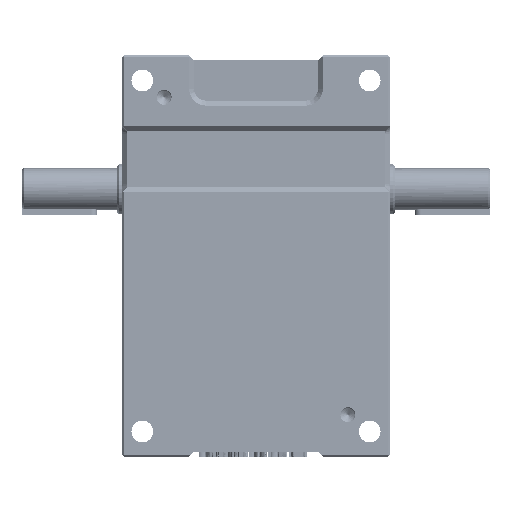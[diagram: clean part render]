
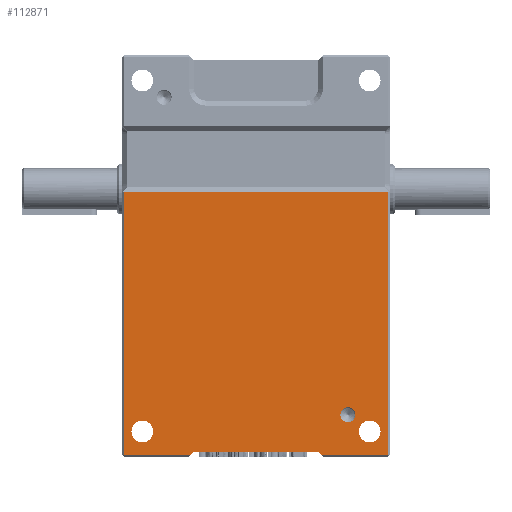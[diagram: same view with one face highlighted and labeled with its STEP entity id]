
A CAD part, front view. The second image highlights one B-rep face of the part: STEP entity #112871.
In plain terms, the highlighted planar face has unit normal (0, -1, 0).
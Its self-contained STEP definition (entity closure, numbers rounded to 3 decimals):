
#633 = CIRCLE ( 'NONE', #91382, 6.5 ) ;
#2591 = CARTESIAN_POINT ( 'NONE',  ( 0., 0., 38. ) ) ;
#5196 = LINE ( 'NONE', #16429, #26968 ) ;
#7037 = DIRECTION ( 'NONE',  ( 0., -1., 0. ) ) ;
#7347 = VERTEX_POINT ( 'NONE', #105244 ) ;
#7643 = EDGE_LOOP ( 'NONE', ( #38108, #106496 ) ) ;
#8387 = CARTESIAN_POINT ( 'NONE',  ( -39., 0., -119. ) ) ;
#9591 = CARTESIAN_POINT ( 'NONE',  ( -68., 0., -98.5 ) ) ;
#12717 = EDGE_CURVE ( 'NONE', #19016, #24311, #633, .T. ) ;
#13719 = PLANE ( 'NONE',  #39126 ) ;
#13885 = CARTESIAN_POINT ( 'NONE',  ( 68., 0., -111.5 ) ) ;
#15091 = CARTESIAN_POINT ( 'NONE',  ( 55., 0., -99.5 ) ) ;
#15590 = EDGE_CURVE ( 'NONE', #111389, #22896, #118101, .T. ) ;
#16051 = VERTEX_POINT ( 'NONE', #15091 ) ;
#16429 = CARTESIAN_POINT ( 'NONE',  ( 79., 0., 0. ) ) ;
#17706 = VECTOR ( 'NONE', #65359, 1000. ) ;
#17763 = LINE ( 'NONE', #59144, #88319 ) ;
#19016 = VERTEX_POINT ( 'NONE', #29663 ) ;
#19221 = EDGE_CURVE ( 'NONE', #38515, #37650, #44780, .T. ) ;
#21787 = FACE_BOUND ( 'NONE', #7643, .T. ) ;
#22896 = VERTEX_POINT ( 'NONE', #8387 ) ;
#24311 = VERTEX_POINT ( 'NONE', #9591 ) ;
#24492 = AXIS2_PLACEMENT_3D ( 'NONE', #54767, #118559, #64024 ) ;
#24713 = FACE_BOUND ( 'NONE', #79881, .T. ) ;
#25164 = EDGE_CURVE ( 'NONE', #7347, #111389, #55324, .T. ) ;
#25351 = CARTESIAN_POINT ( 'NONE',  ( 68., 0., -105. ) ) ;
#26686 = EDGE_LOOP ( 'NONE', ( #108620, #99433, #35570, #73736, #40410, #51152, #28515, #77298 ) ) ;
#26968 = VECTOR ( 'NONE', #99191, 1000. ) ;
#28515 = ORIENTED_EDGE ( 'NONE', *, *, #117228, .F. ) ;
#28581 = VERTEX_POINT ( 'NONE', #45085 ) ;
#29663 = CARTESIAN_POINT ( 'NONE',  ( -68., 0., -111.5 ) ) ;
#30232 = AXIS2_PLACEMENT_3D ( 'NONE', #46139, #110053, #55376 ) ;
#30780 = VECTOR ( 'NONE', #46339, 1000. ) ;
#32361 = DIRECTION ( 'NONE',  ( 0., 0., 1. ) ) ;
#32489 = VERTEX_POINT ( 'NONE', #97321 ) ;
#32625 = DIRECTION ( 'NONE',  ( 0., 0., 1. ) ) ;
#34669 = DIRECTION ( 'NONE',  ( 0., 0., 1. ) ) ;
#35570 = ORIENTED_EDGE ( 'NONE', *, *, #46628, .F. ) ;
#36016 = LINE ( 'NONE', #96507, #111881 ) ;
#37650 = VERTEX_POINT ( 'NONE', #99894 ) ;
#38108 = ORIENTED_EDGE ( 'NONE', *, *, #77966, .F. ) ;
#38262 = EDGE_LOOP ( 'NONE', ( #80477, #68616 ) ) ;
#38471 = CIRCLE ( 'NONE', #30232, 4.5 ) ;
#38515 = VERTEX_POINT ( 'NONE', #103624 ) ;
#39126 = AXIS2_PLACEMENT_3D ( 'NONE', #78249, #87402, #32361 ) ;
#39315 = VERTEX_POINT ( 'NONE', #104964 ) ;
#40115 = CARTESIAN_POINT ( 'NONE',  ( 55., 0., -90.5 ) ) ;
#40410 = ORIENTED_EDGE ( 'NONE', *, *, #82671, .F. ) ;
#41371 = DIRECTION ( 'NONE',  ( 0., -1., 0. ) ) ;
#44780 = LINE ( 'NONE', #89929, #63486 ) ;
#45085 = CARTESIAN_POINT ( 'NONE',  ( 79., 0., 38. ) ) ;
#46139 = CARTESIAN_POINT ( 'NONE',  ( 55., 0., -95. ) ) ;
#46339 = DIRECTION ( 'NONE',  ( -1., 0., 0. ) ) ;
#46628 = EDGE_CURVE ( 'NONE', #37650, #7347, #36016, .T. ) ;
#48661 = EDGE_CURVE ( 'NONE', #32489, #28581, #68841, .T. ) ;
#48813 = LINE ( 'NONE', #60044, #70401 ) ;
#50503 = CIRCLE ( 'NONE', #24492, 6.5 ) ;
#51152 = ORIENTED_EDGE ( 'NONE', *, *, #48661, .F. ) ;
#52102 = EDGE_CURVE ( 'NONE', #16051, #64255, #38471, .T. ) ;
#52180 = FACE_OUTER_BOUND ( 'NONE', #26686, .T. ) ;
#54767 = CARTESIAN_POINT ( 'NONE',  ( -68., 0., -105. ) ) ;
#55324 = LINE ( 'NONE', #82879, #30780 ) ;
#55376 = DIRECTION ( 'NONE',  ( 0., 0., -1. ) ) ;
#59144 = CARTESIAN_POINT ( 'NONE',  ( 0., 0., -119. ) ) ;
#59496 = AXIS2_PLACEMENT_3D ( 'NONE', #62412, #7037, #71626 ) ;
#60044 = CARTESIAN_POINT ( 'NONE',  ( -79., 0., 0. ) ) ;
#62412 = CARTESIAN_POINT ( 'NONE',  ( 55., 0., -95. ) ) ;
#63486 = VECTOR ( 'NONE', #99044, 1000. ) ;
#64024 = DIRECTION ( 'NONE',  ( 0., 0., 1. ) ) ;
#64255 = VERTEX_POINT ( 'NONE', #40115 ) ;
#65359 = DIRECTION ( 'NONE',  ( -0.707, 0., -0.707 ) ) ;
#65760 = CARTESIAN_POINT ( 'NONE',  ( -37., 0., -117. ) ) ;
#65948 = VECTOR ( 'NONE', #103536, 1000. ) ;
#68616 = ORIENTED_EDGE ( 'NONE', *, *, #83395, .F. ) ;
#68841 = LINE ( 'NONE', #2591, #65948 ) ;
#70401 = VECTOR ( 'NONE', #32625, 1000. ) ;
#71608 = EDGE_CURVE ( 'NONE', #22896, #117161, #17763, .T. ) ;
#71626 = DIRECTION ( 'NONE',  ( 0., 0., -1. ) ) ;
#73505 = CARTESIAN_POINT ( 'NONE',  ( -37., 0., -117. ) ) ;
#73736 = ORIENTED_EDGE ( 'NONE', *, *, #19221, .F. ) ;
#77298 = ORIENTED_EDGE ( 'NONE', *, *, #71608, .F. ) ;
#77966 = EDGE_CURVE ( 'NONE', #24311, #19016, #50503, .T. ) ;
#78249 = CARTESIAN_POINT ( 'NONE',  ( 0., 0., 0. ) ) ;
#78597 = DIRECTION ( 'NONE',  ( -0.707, 0., 0.707 ) ) ;
#79881 = EDGE_LOOP ( 'NONE', ( #84729, #102294 ) ) ;
#80477 = ORIENTED_EDGE ( 'NONE', *, *, #52102, .F. ) ;
#82671 = EDGE_CURVE ( 'NONE', #28581, #38515, #5196, .T. ) ;
#82879 = CARTESIAN_POINT ( 'NONE',  ( 0., 0., -117. ) ) ;
#83395 = EDGE_CURVE ( 'NONE', #64255, #16051, #95880, .T. ) ;
#84729 = ORIENTED_EDGE ( 'NONE', *, *, #89962, .F. ) ;
#87402 = DIRECTION ( 'NONE',  ( 0., 1., 0. ) ) ;
#88319 = VECTOR ( 'NONE', #96285, 1000. ) ;
#89668 = DIRECTION ( 'NONE',  ( 0., -1., 0. ) ) ;
#89929 = CARTESIAN_POINT ( 'NONE',  ( 0., 0., -119. ) ) ;
#89962 = EDGE_CURVE ( 'NONE', #39315, #117865, #112870, .T. ) ;
#91382 = AXIS2_PLACEMENT_3D ( 'NONE', #110833, #110740, #110607 ) ;
#94148 = AXIS2_PLACEMENT_3D ( 'NONE', #25351, #89668, #34669 ) ;
#95880 = CIRCLE ( 'NONE', #59496, 4.5 ) ;
#96285 = DIRECTION ( 'NONE',  ( -1., 0., 0. ) ) ;
#96293 = CARTESIAN_POINT ( 'NONE',  ( 68., 0., -105. ) ) ;
#96417 = CARTESIAN_POINT ( 'NONE',  ( -79., 0., -119. ) ) ;
#96507 = CARTESIAN_POINT ( 'NONE',  ( 39., 0., -119. ) ) ;
#97321 = CARTESIAN_POINT ( 'NONE',  ( -79., 0., 38. ) ) ;
#99044 = DIRECTION ( 'NONE',  ( -1., 0., 0. ) ) ;
#99191 = DIRECTION ( 'NONE',  ( 0., 0., -1. ) ) ;
#99433 = ORIENTED_EDGE ( 'NONE', *, *, #25164, .F. ) ;
#99894 = CARTESIAN_POINT ( 'NONE',  ( 39., 0., -119. ) ) ;
#102294 = ORIENTED_EDGE ( 'NONE', *, *, #104723, .F. ) ;
#103536 = DIRECTION ( 'NONE',  ( 1., 0., 0. ) ) ;
#103624 = CARTESIAN_POINT ( 'NONE',  ( 79., 0., -119. ) ) ;
#104129 = CIRCLE ( 'NONE', #94148, 6.5 ) ;
#104723 = EDGE_CURVE ( 'NONE', #117865, #39315, #104129, .T. ) ;
#104964 = CARTESIAN_POINT ( 'NONE',  ( 68., 0., -98.5 ) ) ;
#105244 = CARTESIAN_POINT ( 'NONE',  ( 37., 0., -117. ) ) ;
#105366 = DIRECTION ( 'NONE',  ( 0., 0., 1. ) ) ;
#106496 = ORIENTED_EDGE ( 'NONE', *, *, #12717, .F. ) ;
#108620 = ORIENTED_EDGE ( 'NONE', *, *, #15590, .F. ) ;
#110053 = DIRECTION ( 'NONE',  ( 0., -1., 0. ) ) ;
#110137 = AXIS2_PLACEMENT_3D ( 'NONE', #96293, #41371, #105366 ) ;
#110607 = DIRECTION ( 'NONE',  ( 0., 0., 1. ) ) ;
#110740 = DIRECTION ( 'NONE',  ( 0., -1., 0. ) ) ;
#110833 = CARTESIAN_POINT ( 'NONE',  ( -68., 0., -105. ) ) ;
#111389 = VERTEX_POINT ( 'NONE', #73505 ) ;
#111881 = VECTOR ( 'NONE', #78597, 1000. ) ;
#112870 = CIRCLE ( 'NONE', #110137, 6.5 ) ;
#112871 = ADVANCED_FACE ( 'NONE', ( #52180, #24713, #21787, #116390 ), #13719, .F. ) ;
#116390 = FACE_BOUND ( 'NONE', #38262, .T. ) ;
#117161 = VERTEX_POINT ( 'NONE', #96417 ) ;
#117228 = EDGE_CURVE ( 'NONE', #117161, #32489, #48813, .T. ) ;
#117865 = VERTEX_POINT ( 'NONE', #13885 ) ;
#118101 = LINE ( 'NONE', #65760, #17706 ) ;
#118559 = DIRECTION ( 'NONE',  ( 0., -1., 0. ) ) ;
